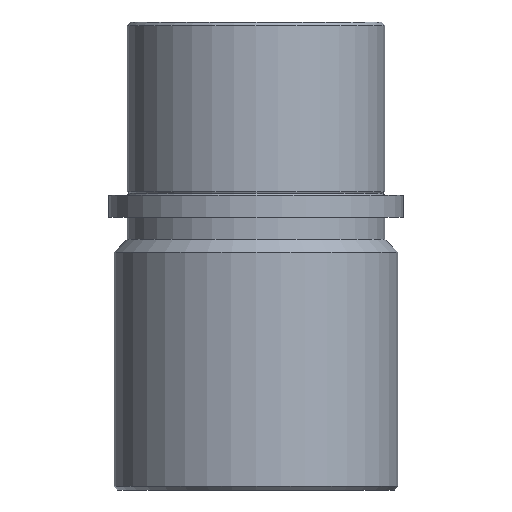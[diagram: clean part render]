
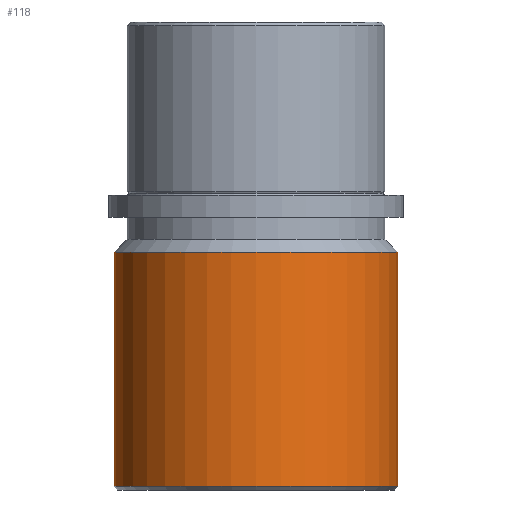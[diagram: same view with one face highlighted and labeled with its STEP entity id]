
A CAD part, front view. The second image highlights one B-rep face of the part: STEP entity #118.
In plain terms, the highlighted cylindrical face has radius 38.5 mm (diameter 77 mm), a partial arc.
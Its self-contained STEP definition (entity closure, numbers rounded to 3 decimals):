
#6 = CIRCLE ( 'NONE', #947, 38.5 ) ;
#40 = VERTEX_POINT ( 'NONE', #440 ) ;
#54 = DIRECTION ( 'NONE',  ( 1., 0., 0. ) ) ;
#62 = EDGE_CURVE ( 'NONE', #956, #993, #6, .T. ) ;
#113 = VECTOR ( 'NONE', #978, 1000. ) ;
#114 = ORIENTED_EDGE ( 'NONE', *, *, #1032, .F. ) ;
#118 = ADVANCED_FACE ( 'NONE', ( #798 ), #991, .T. ) ;
#139 = VERTEX_POINT ( 'NONE', #627 ) ;
#196 = EDGE_CURVE ( 'NONE', #993, #40, #971, .T. ) ;
#211 = DIRECTION ( 'NONE',  ( 1., 0., 0. ) ) ;
#214 = ORIENTED_EDGE ( 'NONE', *, *, #196, .T. ) ;
#219 = DIRECTION ( 'NONE',  ( 1., 0., 0. ) ) ;
#259 = CARTESIAN_POINT ( 'NONE',  ( -38.5, 0., -126. ) ) ;
#273 = CIRCLE ( 'NONE', #792, 38.5 ) ;
#305 = DIRECTION ( 'NONE',  ( 0., 0., 1. ) ) ;
#323 = CARTESIAN_POINT ( 'NONE',  ( 0., 0., -126. ) ) ;
#332 = CARTESIAN_POINT ( 'NONE',  ( 38.5, 0., 0. ) ) ;
#395 = LINE ( 'NONE', #678, #1009 ) ;
#435 = DIRECTION ( 'NONE',  ( 0., 0., 1. ) ) ;
#440 = CARTESIAN_POINT ( 'NONE',  ( 38.5, 0., -62.5 ) ) ;
#463 = DIRECTION ( 'NONE',  ( 0., 0., 1. ) ) ;
#481 = CARTESIAN_POINT ( 'NONE',  ( 0., 0., -62.5 ) ) ;
#486 = EDGE_LOOP ( 'NONE', ( #114, #551, #214, #644 ) ) ;
#510 = AXIS2_PLACEMENT_3D ( 'NONE', #1018, #736, #211 ) ;
#528 = EDGE_CURVE ( 'NONE', #139, #40, #273, .T. ) ;
#537 = CARTESIAN_POINT ( 'NONE',  ( 38.5, 0., -126. ) ) ;
#551 = ORIENTED_EDGE ( 'NONE', *, *, #62, .T. ) ;
#627 = CARTESIAN_POINT ( 'NONE',  ( -38.5, 0., -62.5 ) ) ;
#644 = ORIENTED_EDGE ( 'NONE', *, *, #528, .F. ) ;
#678 = CARTESIAN_POINT ( 'NONE',  ( -38.5, 0., 0. ) ) ;
#736 = DIRECTION ( 'NONE',  ( 0., 0., 1. ) ) ;
#792 = AXIS2_PLACEMENT_3D ( 'NONE', #481, #435, #54 ) ;
#798 = FACE_OUTER_BOUND ( 'NONE', #486, .T. ) ;
#947 = AXIS2_PLACEMENT_3D ( 'NONE', #323, #305, #219 ) ;
#956 = VERTEX_POINT ( 'NONE', #259 ) ;
#971 = LINE ( 'NONE', #332, #113 ) ;
#978 = DIRECTION ( 'NONE',  ( 0., 0., 1. ) ) ;
#991 = CYLINDRICAL_SURFACE ( 'NONE', #510, 38.5 ) ;
#993 = VERTEX_POINT ( 'NONE', #537 ) ;
#1009 = VECTOR ( 'NONE', #463, 1000. ) ;
#1018 = CARTESIAN_POINT ( 'NONE',  ( 0., 0., 0. ) ) ;
#1032 = EDGE_CURVE ( 'NONE', #956, #139, #395, .T. ) ;
